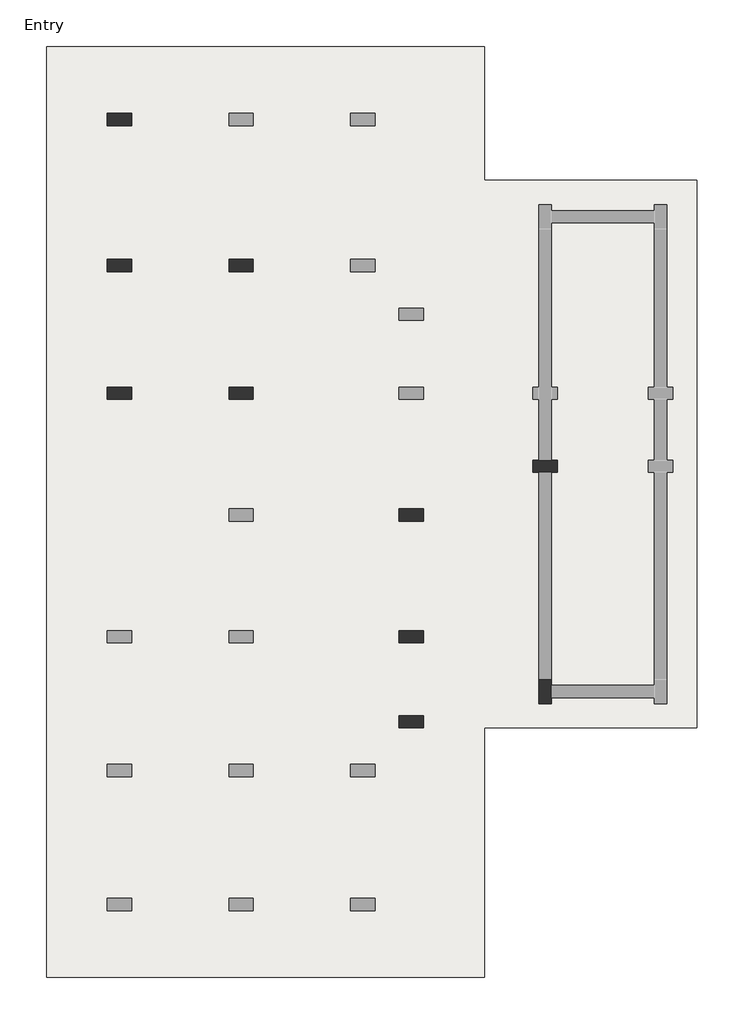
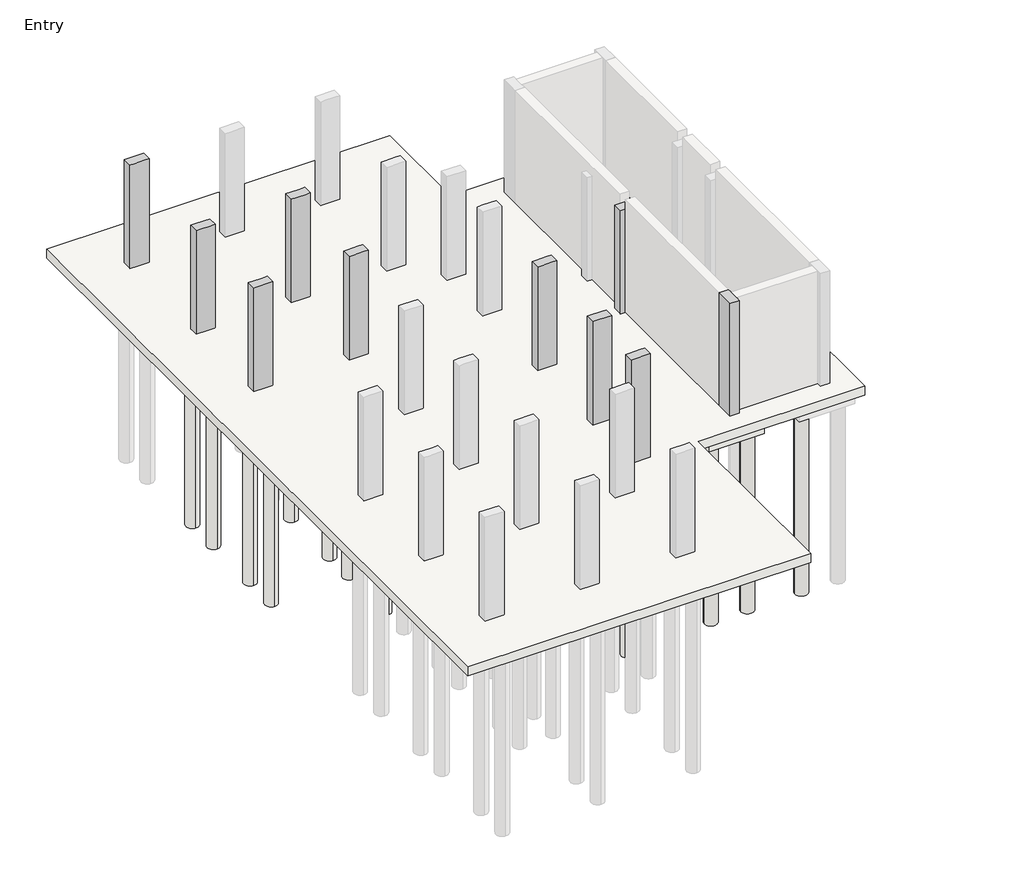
# One storey, part 2 of 3: 35 slabs, 10 columns.
"""IFC4 building model written with IfcOpenShell, lengths in millimetres."""

from ifc_helpers import new_model, si_unit, point, frame, frame_2d, origin, place, context, project, spatial, polyline, circle_curve, trimmed, segment, composite_curve, outline, extrude, faceted_brep, element, save

model = new_model("IFC4")

# Units and contexts
model_context = context("Model", 3, world=origin())
ifc_project = project(units=[si_unit("LENGTHUNIT", "METRE", prefix="MILLI")], contexts=[model_context])

# Site, building, storey
site = spatial("IfcSite", under=ifc_project)
building = spatial("IfcBuilding", under=site)
storey = spatial("IfcBuildingStorey", under=building, Name="Entry", Elevation=0.0)

# Columns
placement = place(None, origin())
element("IfcColumn", 1, ObjectType="Concrete-Rectangular-Column : 12 x 24", at=placement, inside=storey, context=model_context, shape_type="Brep", body=[
    faceted_brep([(-13471.1073204, 23769.0572372, 0.0), (-12861.5073204, 23769.0572372, 0.0), (-12861.5073204, 23464.2572372, 0.0), (-13471.1073204, 23464.2572372, 0.0), (-13471.1073204, 23769.0572372, 3505.2), (-12861.5073204, 23769.0572372, 3505.2), (-12861.5073204, 23769.0572372, 2895.6), (-12861.5073204, 23464.2572372, 3505.2), (-12861.5073204, 23464.2572372, 2895.6), (-13013.9073204, 23464.2572372, 3505.2), (-13318.7073204, 23464.2572372, 3505.2), (-13471.1073204, 23464.2572372, 3505.2)], [[[0, 1, 2, 3]], [[4, 5, 6, 1, 0]], [[5, 7, 8, 2, 1, 6]], [[7, 9, 10, 11, 3, 2, 8]], [[11, 4, 0, 3]], [[4, 11, 10, 9, 7, 5]]]),
])
element("IfcColumn", 2, ObjectType="Concrete-Rectangular-Column : 12 x 24", at=placement, inside=storey, context=model_context, shape_type="Brep", body=[
    faceted_brep([(-13471.1073204, 20111.4572372, 0.0), (-12861.5073204, 20111.4572372, 0.0), (-12861.5073204, 19806.6572372, 0.0), (-13471.1073204, 19806.6572372, 0.0), (-13471.1073204, 20111.4572372, 3505.2), (-13318.7073204, 20111.4572372, 3505.2), (-13013.9073204, 20111.4572372, 3505.2), (-12861.5073204, 20111.4572372, 3505.2), (-12861.5073204, 20111.4572372, 2895.6), (-12861.5073204, 19806.6572372, 3505.2), (-12861.5073204, 19806.6572372, 2895.6), (-13013.9073204, 19806.6572372, 3505.2), (-13318.7073204, 19806.6572372, 3505.2), (-13471.1073204, 19806.6572372, 3505.2)], [[[0, 1, 2, 3]], [[4, 5, 6, 7, 8, 1, 0]], [[7, 9, 10, 2, 1, 8]], [[9, 11, 12, 13, 3, 2, 10]], [[13, 4, 0, 3]], [[4, 13, 12, 11, 9, 7, 6, 5]]]),
])
element("IfcColumn", 3, ObjectType="Concrete-Rectangular-Column : 12 x 24", at=placement, inside=storey, context=model_context, shape_type="Brep", body=[
    faceted_brep([(-10423.1073204, 20111.4572372, 0.0), (-9813.5073204, 20111.4572372, 0.0), (-9813.5073204, 19806.6572372, 0.0), (-10423.1073204, 19806.6572372, 0.0), (-10423.1073204, 20111.4572372, 3505.2), (-10270.7073204, 20111.4572372, 3505.2), (-9965.9073204, 20111.4572372, 3505.2), (-9813.5073204, 20111.4572372, 3505.2), (-9813.5073204, 20111.4572372, 2895.6), (-10423.1073204, 20111.4572372, 2895.6), (-9813.5073204, 19806.6572372, 3505.2), (-9813.5073204, 19806.6572372, 2895.6), (-9965.9073204, 19806.6572372, 3505.2), (-10270.7073204, 19806.6572372, 3505.2), (-10423.1073204, 19806.6572372, 3505.2), (-10423.1073204, 19806.6572372, 2895.6)], [[[0, 1, 2, 3]], [[4, 5, 6, 7, 8, 1, 0, 9]], [[7, 10, 11, 2, 1, 8]], [[10, 12, 13, 14, 15, 3, 2, 11]], [[14, 4, 9, 0, 3, 15]], [[4, 14, 13, 12, 10, 7, 6, 5]]]),
])
element("IfcColumn", 4, ObjectType="Concrete-Rectangular-Column : 12 x 24", at=placement, inside=storey, context=model_context, shape_type="Brep", body=[
    faceted_brep([(-13471.1073204, 16911.0572372, 0.0), (-12861.5073204, 16911.0572372, 0.0), (-12861.5073204, 16606.2572372, 0.0), (-13471.1073204, 16606.2572372, 0.0), (-13471.1073204, 16911.0572372, 3505.2), (-13318.7073204, 16911.0572372, 3505.2), (-13013.9073204, 16911.0572372, 3505.2), (-12861.5073204, 16911.0572372, 3505.2), (-12861.5073204, 16911.0572372, 2895.6), (-12861.5073204, 16606.2572372, 3505.2), (-12861.5073204, 16606.2572372, 2895.6), (-13471.1073204, 16606.2572372, 3505.2)], [[[0, 1, 2, 3]], [[4, 5, 6, 7, 8, 1, 0]], [[7, 9, 10, 2, 1, 8]], [[9, 11, 3, 2, 10]], [[11, 4, 0, 3]], [[4, 11, 9, 7, 6, 5]]]),
])
element("IfcColumn", 5, ObjectType="Concrete-Rectangular-Column : 12 x 24", at=placement, inside=storey, context=model_context, shape_type="Brep", body=[
    faceted_brep([(-10423.1073204, 16911.0572372, 0.0), (-9813.5073204, 16911.0572372, 0.0), (-9813.5073204, 16606.2572372, 0.0), (-10423.1073204, 16606.2572372, 0.0), (-10423.1073204, 16911.0572372, 3505.2), (-10270.7073204, 16911.0572372, 3505.2), (-9965.9073204, 16911.0572372, 3505.2), (-9813.5073204, 16911.0572372, 3505.2), (-9813.5073204, 16911.0572372, 2895.6), (-10423.1073204, 16911.0572372, 2895.6), (-9813.5073204, 16606.2572372, 3505.2), (-9813.5073204, 16606.2572372, 2895.6), (-9965.9073204, 16606.2572372, 3505.2), (-10270.7073204, 16606.2572372, 3505.2), (-10423.1073204, 16606.2572372, 3505.2), (-10423.1073204, 16606.2572372, 2895.6)], [[[0, 1, 2, 3]], [[4, 5, 6, 7, 8, 1, 0, 9]], [[7, 10, 11, 2, 1, 8]], [[10, 12, 13, 14, 15, 3, 2, 11]], [[14, 4, 9, 0, 3, 15]], [[4, 14, 13, 12, 10, 7, 6, 5]]]),
])
element("IfcColumn", 6, ObjectType="Concrete-Rectangular-Column : 12 x 24", at=placement, inside=storey, context=model_context, shape_type="Brep", body=[
    faceted_brep([(-2803.8500241, 15082.2572372, 0.0), (-2651.4500241, 15082.2572372, 0.0), (-2346.6500241, 15082.2572372, 0.0), (-2194.2500241, 15082.2572372, 0.0), (-2194.2500241, 14777.4572372, 0.0), (-2346.6500241, 14777.4572372, 0.0), (-2651.4500241, 14777.4572372, 0.0), (-2803.8500241, 14777.4572372, 0.0), (-2803.8500241, 15082.2572372, 3505.2), (-2194.2500241, 15082.2572372, 3505.2), (-2194.2500241, 14777.4572372, 3505.2), (-2803.8500241, 14777.4572372, 3505.2)], [[[0, 1, 2, 3, 4, 5, 6, 7]], [[3, 2, 1, 0, 8, 9]], [[4, 3, 9, 10]], [[7, 6, 5, 4, 10, 11]], [[0, 7, 11, 8]], [[9, 8, 11, 10]]]),
])
element("IfcColumn", 7, ObjectType="Concrete-Rectangular-Column : 12 x 24", at=placement, inside=storey, context=model_context, shape_type="Brep", body=[
    faceted_brep([(-6156.6500241, 13863.0572372, 0.0), (-5547.0500241, 13863.0572372, 0.0), (-5547.0500241, 13558.2572372, 0.0), (-6156.6500241, 13558.2572372, 0.0), (-6156.6500241, 13863.0572372, 3505.2), (-6004.2500241, 13863.0572372, 3505.2), (-5699.4500241, 13863.0572372, 3505.2), (-5547.0500241, 13863.0572372, 3505.2), (-6156.6500241, 13863.0572372, 2895.6), (-5547.0500241, 13558.2572372, 3505.2), (-5699.4500241, 13558.2572372, 3505.2), (-6004.2500241, 13558.2572372, 3505.2), (-6156.6500241, 13558.2572372, 3505.2), (-6156.6500241, 13558.2572372, 2895.6)], [[[0, 1, 2, 3]], [[4, 5, 6, 7, 1, 0, 8]], [[7, 9, 2, 1]], [[9, 10, 11, 12, 13, 3, 2]], [[12, 4, 8, 0, 3, 13]], [[4, 12, 11, 10, 9, 7, 6, 5]]]),
])
element("IfcColumn", 8, ObjectType="Concrete-Rectangular-Column : 12 x 24", at=placement, inside=storey, context=model_context, shape_type="Brep", body=[
    faceted_brep([(-6156.6500241, 10815.0572372, 0.0), (-5547.0500241, 10815.0572372, 0.0), (-5547.0500241, 10510.2572372, 0.0), (-6156.6500241, 10510.2572372, 0.0), (-6156.6500241, 10815.0572372, 3505.2), (-6004.2500241, 10815.0572372, 3505.2), (-5699.4500241, 10815.0572372, 3505.2), (-5547.0500241, 10815.0572372, 3505.2), (-6156.6500241, 10815.0572372, 2895.6), (-5547.0500241, 10510.2572372, 3505.2), (-5699.4500241, 10510.2572372, 3505.2), (-6004.2500241, 10510.2572372, 3505.2), (-6156.6500241, 10510.2572372, 3505.2), (-6156.6500241, 10510.2572372, 2895.6)], [[[0, 1, 2, 3]], [[4, 5, 6, 7, 1, 0, 8]], [[7, 9, 2, 1]], [[9, 10, 11, 12, 13, 3, 2]], [[12, 4, 8, 0, 3, 13]], [[4, 12, 11, 10, 9, 7, 6, 5]]]),
])
element("IfcColumn", 9, ObjectType="Concrete-Rectangular-Column : 12 x 24", at=placement, inside=storey, context=model_context, shape_type="Brep", body=[
    faceted_brep([(-6156.6500241, 8681.4572372, 0.0), (-5547.0500241, 8681.4572372, 0.0), (-5547.0500241, 8376.6572372, 0.0), (-6156.6500241, 8376.6572372, 0.0), (-6156.6500241, 8681.4572372, 3505.2), (-6004.2500241, 8681.4572372, 3505.2), (-5699.4500241, 8681.4572372, 3505.2), (-5547.0500241, 8681.4572372, 3505.2), (-6156.6500241, 8681.4572372, 2895.6), (-5547.0500241, 8376.6572372, 3505.2), (-6156.6500241, 8376.6572372, 3505.2), (-6156.6500241, 8376.6572372, 2895.6)], [[[0, 1, 2, 3]], [[4, 5, 6, 7, 1, 0, 8]], [[7, 9, 2, 1]], [[9, 10, 11, 3, 2]], [[10, 4, 8, 0, 3, 11]], [[4, 10, 9, 7, 6, 5]]]),
])
element("IfcColumn", 10, ObjectType="Concrete-Rectangular-Column : 12 x 24", at=placement, inside=storey, context=model_context, shape_type="Brep", body=[
    faceted_brep([(-2346.6500241, 9595.8572372, 0.0), (-2346.6500241, 9443.4572372, 0.0), (-2346.6500241, 9138.6572372, 0.0), (-2346.6500241, 8986.2572372, 0.0), (-2651.4500241, 8986.2572372, 0.0), (-2651.4500241, 9595.8572372, 0.0), (-2346.6500241, 9595.8572372, 3810.0), (-2346.6500241, 9443.4572372, 3810.0), (-2346.6500241, 9138.6572372, 3810.0), (-2346.6500241, 8986.2572372, 3810.0), (-2651.4500241, 8986.2572372, 3810.0), (-2651.4500241, 9595.8572372, 3810.0)], [[[0, 1, 2, 3, 4, 5]], [[6, 7, 8, 9, 3, 2, 1, 0]], [[9, 10, 4, 3]], [[10, 11, 5, 4]], [[11, 6, 0, 5]], [[6, 11, 10, 9, 8, 7]]]),
])

# Slabs
element("IfcSlab", 11, ObjectType="12\" Foundation Slab", at=placement, inside=storey, context=model_context, shape_type="SweptSolid", body=[
    extrude(outline(polyline([(-4023.0500241, 25445.4572372), (-4023.0500241, 22092.6572372), (1309.1860546, 22092.6572372), (1309.1860546, 8376.6572372), (-4023.0500241, 8376.6572372), (-4023.0500241, 2128.2572372), (-14995.1073204, 2128.2572372), (-14995.1073204, 25445.4572372), (-4023.0500241, 25445.4572372)])), frame((0.0, 0.0, -304.8), z_axis=(0.0, 0.0, 1.0), x_axis=(1.0, 0.0, 0.0)), (0.0, 0.0, 1.0), 304.8),
])
element("IfcSlab", 12, ObjectType="Pile Cap-2 Pile : 31\"x61\"x35\"", at=placement, inside=storey, context=model_context, shape_type="SweptSolid", body=[
    extrude(outline(polyline([(-13572.7073204, 24505.6572372), (-12759.9073204, 24505.6572372), (-12759.9073204, 22727.6572372), (-13572.7073204, 22727.6572372), (-13572.7073204, 24505.6572372)])), frame((0.0, 0.0, -889.0), z_axis=(0.0, 0.0, 1.0), x_axis=(1.0, 0.0, 0.0)), (0.0, 0.0, 1.0), 584.2),
])
element("IfcSlab", 13, ObjectType="Pile Cap-2 Pile : 31\"x61\"x35\"", at=placement, inside=storey, context=model_context, shape_type="SweptSolid", body=[
    extrude(outline(polyline([(-13572.7073204, 20848.0572372), (-12759.9073204, 20848.0572372), (-12759.9073204, 19070.0572372), (-13572.7073204, 19070.0572372), (-13572.7073204, 20848.0572372)])), frame((0.0, 0.0, -889.0), z_axis=(0.0, 0.0, 1.0), x_axis=(1.0, 0.0, 0.0)), (0.0, 0.0, 1.0), 584.2),
])
element("IfcSlab", 14, ObjectType="Pile Cap-2 Pile : 31\"x61\"x35\"", at=placement, inside=storey, context=model_context, shape_type="SweptSolid", body=[
    extrude(outline(polyline([(-13572.7073204, 17647.6572372), (-12759.9073204, 17647.6572372), (-12759.9073204, 15869.6572372), (-13572.7073204, 15869.6572372), (-13572.7073204, 17647.6572372)])), frame((0.0, 0.0, -889.0), z_axis=(0.0, 0.0, 1.0), x_axis=(1.0, 0.0, 0.0)), (0.0, 0.0, 1.0), 584.2),
])
element("IfcSlab", 15, ObjectType="Pile Cap-2 Pile : 31\"x61\"x35\"", at=placement, inside=storey, context=model_context, shape_type="SweptSolid", body=[
    extrude(outline(polyline([(-6258.2500241, 14599.6572372), (-5445.4500241, 14599.6572372), (-5445.4500241, 12821.6572372), (-6258.2500241, 12821.6572372), (-6258.2500241, 14599.6572372)])), frame((0.0, 0.0, -889.0), z_axis=(0.0, 0.0, 1.0), x_axis=(1.0, 0.0, 0.0)), (0.0, 0.0, 1.0), 584.2),
])
element("IfcSlab", 16, ObjectType="Pile Cap-2 Pile : 31\"x61\"x35\"", at=placement, inside=storey, context=model_context, shape_type="SweptSolid", body=[
    extrude(outline(polyline([(-6258.2500241, 11551.6572372), (-5445.4500241, 11551.6572372), (-5445.4500241, 9773.6572372), (-6258.2500241, 9773.6572372), (-6258.2500241, 11551.6572372)])), frame((0.0, 0.0, -889.0), z_axis=(0.0, 0.0, 1.0), x_axis=(1.0, 0.0, 0.0)), (0.0, 0.0, 1.0), 584.2),
])
element("IfcSlab", 17, ObjectType="Pile Cap-2 Pile : 31\"x61\"x35\"", at=placement, inside=storey, context=model_context, shape_type="SweptSolid", body=[
    extrude(outline(polyline([(-3388.0500241, 14523.4572372), (-3388.0500241, 15336.2572372), (-1610.0500241, 15336.2572372), (-1610.0500241, 14523.4572372), (-3388.0500241, 14523.4572372)])), frame((0.0, 0.0, -889.0), z_axis=(0.0, 0.0, 1.0), x_axis=(1.0, 0.0, 0.0)), (0.0, 0.0, 1.0), 584.2),
])
element("IfcSlab", 18, ObjectType="Pile Cap-2 Pile : 31\"x61\"x35\"", at=placement, inside=storey, context=model_context, shape_type="SweptSolid", body=[
    extrude(outline(polyline([(-1610.0500241, 9697.4572372), (-1610.0500241, 8884.6572372), (-3388.0500241, 8884.6572372), (-3388.0500241, 9697.4572372), (-1610.0500241, 9697.4572372)])), frame((0.0, 0.0, -889.0), z_axis=(0.0, 0.0, 1.0), x_axis=(1.0, 0.0, 0.0)), (0.0, 0.0, 1.0), 584.2),
])
element("IfcSlab", 19, ObjectType="Pile Cap-2 Pile : 31\"x61\"x35\"", at=placement, inside=storey, context=model_context, shape_type="SweptSolid", body=[
    extrude(outline(polyline([(-6258.2500241, 9418.0572372), (-5445.4500241, 9418.0572372), (-5445.4500241, 7640.0572372), (-6258.2500241, 7640.0572372), (-6258.2500241, 9418.0572372)])), frame((0.0, 0.0, -889.0), z_axis=(0.0, 0.0, 1.0), x_axis=(1.0, 0.0, 0.0)), (0.0, 0.0, 1.0), 584.2),
])
element("IfcSlab", 20, ObjectType="Pile Cap-4 Pile : 72\"x72\"x35\"", at=placement, inside=storey, context=model_context, shape_type="SweptSolid", body=[
    extrude(outline(polyline([(-11032.7073204, 20873.4572372), (-9203.9073204, 20873.4572372), (-9203.9073204, 19044.6572372), (-11032.7073204, 19044.6572372), (-11032.7073204, 20873.4572372)])), frame((0.0, 0.0, -889.0), z_axis=(0.0, 0.0, 1.0), x_axis=(1.0, 0.0, 0.0)), (0.0, 0.0, 1.0), 584.2),
])
element("IfcSlab", 21, ObjectType="Pile Cap-4 Pile : 72\"x72\"x35\"", at=placement, inside=storey, context=model_context, shape_type="SweptSolid", body=[
    extrude(outline(polyline([(-11032.7073204, 17673.0572372), (-9203.9073204, 17673.0572372), (-9203.9073204, 15844.2572372), (-11032.7073204, 15844.2572372), (-11032.7073204, 17673.0572372)])), frame((0.0, 0.0, -889.0), z_axis=(0.0, 0.0, 1.0), x_axis=(1.0, 0.0, 0.0)), (0.0, 0.0, 1.0), 584.2),
])
element("IfcSlab", 22, ObjectType="Pile-Steel Pipe : 16\" Diameter", at=placement, inside=storey, context=model_context, shape_type="SweptSolid", body=[
    extrude(outline(composite_curve([segment(trimmed(circle_curve(frame_2d((-10651.7073204, 19425.6572372)), 203.2), [point((-10651.7073204, 19222.4572372))], [point((-10651.7073204, 19628.8572372))], False, "CARTESIAN"), True, "CONTINUOUS"), segment(trimmed(circle_curve(frame_2d((-10651.7073204, 19425.6572372)), 203.2), [point((-10651.7073204, 19628.8572372))], [point((-10651.7073204, 19222.4572372))], False, "CARTESIAN"), True, "CONTINUOUS")], self_intersect=False)), frame((0.0, 0.0, -6985.0), z_axis=(0.0, 0.0, 1.0), x_axis=(1.0, 0.0, 0.0)), (0.0, 0.0, 1.0), 6096.0),
])
element("IfcSlab", 23, ObjectType="Pile-Steel Pipe : 16\" Diameter", at=placement, inside=storey, context=model_context, shape_type="SweptSolid", body=[
    extrude(outline(composite_curve([segment(trimmed(circle_curve(frame_2d((-9584.9073204, 19425.6572372)), 203.2), [point((-9584.9073204, 19222.4572372))], [point((-9584.9073204, 19628.8572372))], False, "CARTESIAN"), True, "CONTINUOUS"), segment(trimmed(circle_curve(frame_2d((-9584.9073204, 19425.6572372)), 203.2), [point((-9584.9073204, 19628.8572372))], [point((-9584.9073204, 19222.4572372))], False, "CARTESIAN"), True, "CONTINUOUS")], self_intersect=False)), frame((0.0, 0.0, -6985.0), z_axis=(0.0, 0.0, 1.0), x_axis=(1.0, 0.0, 0.0)), (0.0, 0.0, 1.0), 6096.0),
])
element("IfcSlab", 24, ObjectType="Pile-Steel Pipe : 16\" Diameter", at=placement, inside=storey, context=model_context, shape_type="SweptSolid", body=[
    extrude(outline(composite_curve([segment(trimmed(circle_curve(frame_2d((-10651.7073204, 16225.2572372)), 203.2), [point((-10651.7073204, 16022.0572372))], [point((-10651.7073204, 16428.4572372))], False, "CARTESIAN"), True, "CONTINUOUS"), segment(trimmed(circle_curve(frame_2d((-10651.7073204, 16225.2572372)), 203.2), [point((-10651.7073204, 16428.4572372))], [point((-10651.7073204, 16022.0572372))], False, "CARTESIAN"), True, "CONTINUOUS")], self_intersect=False)), frame((0.0, 0.0, -6985.0), z_axis=(0.0, 0.0, 1.0), x_axis=(1.0, 0.0, 0.0)), (0.0, 0.0, 1.0), 6096.0),
])
element("IfcSlab", 25, ObjectType="Pile-Steel Pipe : 16\" Diameter", at=placement, inside=storey, context=model_context, shape_type="SweptSolid", body=[
    extrude(outline(composite_curve([segment(trimmed(circle_curve(frame_2d((-9584.9073204, 16225.2572372)), 203.2), [point((-9584.9073204, 16022.0572372))], [point((-9584.9073204, 16428.4572372))], False, "CARTESIAN"), True, "CONTINUOUS"), segment(trimmed(circle_curve(frame_2d((-9584.9073204, 16225.2572372)), 203.2), [point((-9584.9073204, 16428.4572372))], [point((-9584.9073204, 16022.0572372))], False, "CARTESIAN"), True, "CONTINUOUS")], self_intersect=False)), frame((0.0, 0.0, -6985.0), z_axis=(0.0, 0.0, 1.0), x_axis=(1.0, 0.0, 0.0)), (0.0, 0.0, 1.0), 6096.0),
])
element("IfcSlab", 26, ObjectType="Pile-Steel Pipe : 16\" Diameter", at=placement, inside=storey, context=model_context, shape_type="SweptSolid", body=[
    extrude(outline(composite_curve([segment(trimmed(circle_curve(frame_2d((-9584.9073204, 17292.0572372)), 203.2), [point((-9584.9073204, 17088.8572372))], [point((-9584.9073204, 17495.2572372))], False, "CARTESIAN"), True, "CONTINUOUS"), segment(trimmed(circle_curve(frame_2d((-9584.9073204, 17292.0572372)), 203.2), [point((-9584.9073204, 17495.2572372))], [point((-9584.9073204, 17088.8572372))], False, "CARTESIAN"), True, "CONTINUOUS")], self_intersect=False)), frame((0.0, 0.0, -6985.0), z_axis=(0.0, 0.0, 1.0), x_axis=(1.0, 0.0, 0.0)), (0.0, 0.0, 1.0), 6096.0),
])
element("IfcSlab", 27, ObjectType="Pile-Steel Pipe : 16\" Diameter", at=placement, inside=storey, context=model_context, shape_type="SweptSolid", body=[
    extrude(outline(composite_curve([segment(trimmed(circle_curve(frame_2d((-10651.7073204, 17292.0572372)), 203.2), [point((-10651.7073204, 17088.8572372))], [point((-10651.7073204, 17495.2572372))], False, "CARTESIAN"), True, "CONTINUOUS"), segment(trimmed(circle_curve(frame_2d((-10651.7073204, 17292.0572372)), 203.2), [point((-10651.7073204, 17495.2572372))], [point((-10651.7073204, 17088.8572372))], False, "CARTESIAN"), True, "CONTINUOUS")], self_intersect=False)), frame((0.0, 0.0, -6985.0), z_axis=(0.0, 0.0, 1.0), x_axis=(1.0, 0.0, 0.0)), (0.0, 0.0, 1.0), 6096.0),
])
element("IfcSlab", 28, ObjectType="Pile-Steel Pipe : 16\" Diameter", at=placement, inside=storey, context=model_context, shape_type="SweptSolid", body=[
    extrude(outline(composite_curve([segment(trimmed(circle_curve(frame_2d((-9584.9073204, 13177.2572372)), 203.2), [point((-9584.9073204, 12974.0572372))], [point((-9584.9073204, 13380.4572372))], False, "CARTESIAN"), True, "CONTINUOUS"), segment(trimmed(circle_curve(frame_2d((-9584.9073204, 13177.2572372)), 203.2), [point((-9584.9073204, 13380.4572372))], [point((-9584.9073204, 12974.0572372))], False, "CARTESIAN"), True, "CONTINUOUS")], self_intersect=False)), frame((0.0, 0.0, -6985.0), z_axis=(0.0, 0.0, 1.0), x_axis=(1.0, 0.0, 0.0)), (0.0, 0.0, 1.0), 6096.0),
])
element("IfcSlab", 29, ObjectType="Pile-Steel Pipe : 16\" Diameter", at=placement, inside=storey, context=model_context, shape_type="SweptSolid", body=[
    extrude(outline(composite_curve([segment(trimmed(circle_curve(frame_2d((-9584.9073204, 14244.0572372)), 203.2), [point((-9584.9073204, 14040.8572372))], [point((-9584.9073204, 14447.2572372))], False, "CARTESIAN"), True, "CONTINUOUS"), segment(trimmed(circle_curve(frame_2d((-9584.9073204, 14244.0572372)), 203.2), [point((-9584.9073204, 14447.2572372))], [point((-9584.9073204, 14040.8572372))], False, "CARTESIAN"), True, "CONTINUOUS")], self_intersect=False)), frame((0.0, 0.0, -6985.0), z_axis=(0.0, 0.0, 1.0), x_axis=(1.0, 0.0, 0.0)), (0.0, 0.0, 1.0), 6096.0),
])
element("IfcSlab", 30, ObjectType="Pile-Steel Pipe : 16\" Diameter", at=placement, inside=storey, context=model_context, shape_type="SweptSolid", body=[
    extrude(outline(composite_curve([segment(trimmed(circle_curve(frame_2d((-10651.7073204, 14244.0572372)), 203.2), [point((-10651.7073204, 14040.8572372))], [point((-10651.7073204, 14447.2572372))], False, "CARTESIAN"), True, "CONTINUOUS"), segment(trimmed(circle_curve(frame_2d((-10651.7073204, 14244.0572372)), 203.2), [point((-10651.7073204, 14447.2572372))], [point((-10651.7073204, 14040.8572372))], False, "CARTESIAN"), True, "CONTINUOUS")], self_intersect=False)), frame((0.0, 0.0, -6985.0), z_axis=(0.0, 0.0, 1.0), x_axis=(1.0, 0.0, 0.0)), (0.0, 0.0, 1.0), 6096.0),
])
element("IfcSlab", 31, ObjectType="Pile-Steel Pipe : 16\" Diameter", at=placement, inside=storey, context=model_context, shape_type="SweptSolid", body=[
    extrude(outline(composite_curve([segment(trimmed(circle_curve(frame_2d((-13166.3073204, 19374.8572372)), 203.2), [point((-13166.3073204, 19171.6572372))], [point((-13166.3073204, 19578.0572372))], False, "CARTESIAN"), True, "CONTINUOUS"), segment(trimmed(circle_curve(frame_2d((-13166.3073204, 19374.8572372)), 203.2), [point((-13166.3073204, 19578.0572372))], [point((-13166.3073204, 19171.6572372))], False, "CARTESIAN"), True, "CONTINUOUS")], self_intersect=False)), frame((0.0, 0.0, -6985.0), z_axis=(0.0, 0.0, 1.0), x_axis=(1.0, 0.0, 0.0)), (0.0, 0.0, 1.0), 6096.0),
])
element("IfcSlab", 32, ObjectType="Pile-Steel Pipe : 16\" Diameter", at=placement, inside=storey, context=model_context, shape_type="SweptSolid", body=[
    extrude(outline(composite_curve([segment(trimmed(circle_curve(frame_2d((-13166.3073204, 20543.2572372)), 203.2), [point((-13166.3073204, 20340.0572372))], [point((-13166.3073204, 20746.4572372))], False, "CARTESIAN"), True, "CONTINUOUS"), segment(trimmed(circle_curve(frame_2d((-13166.3073204, 20543.2572372)), 203.2), [point((-13166.3073204, 20746.4572372))], [point((-13166.3073204, 20340.0572372))], False, "CARTESIAN"), True, "CONTINUOUS")], self_intersect=False)), frame((0.0, 0.0, -6985.0), z_axis=(0.0, 0.0, 1.0), x_axis=(1.0, 0.0, 0.0)), (0.0, 0.0, 1.0), 6096.0),
])
element("IfcSlab", 33, ObjectType="Pile-Steel Pipe : 16\" Diameter", at=placement, inside=storey, context=model_context, shape_type="SweptSolid", body=[
    extrude(outline(composite_curve([segment(trimmed(circle_curve(frame_2d((-13166.3073204, 16174.4572372)), 203.2), [point((-13166.3073204, 15971.2572372))], [point((-13166.3073204, 16377.6572372))], False, "CARTESIAN"), True, "CONTINUOUS"), segment(trimmed(circle_curve(frame_2d((-13166.3073204, 16174.4572372)), 203.2), [point((-13166.3073204, 16377.6572372))], [point((-13166.3073204, 15971.2572372))], False, "CARTESIAN"), True, "CONTINUOUS")], self_intersect=False)), frame((0.0, 0.0, -6985.0), z_axis=(0.0, 0.0, 1.0), x_axis=(1.0, 0.0, 0.0)), (0.0, 0.0, 1.0), 6096.0),
])
element("IfcSlab", 34, ObjectType="Pile-Steel Pipe : 16\" Diameter", at=placement, inside=storey, context=model_context, shape_type="SweptSolid", body=[
    extrude(outline(composite_curve([segment(trimmed(circle_curve(frame_2d((-13166.3073204, 17342.8572372)), 203.2), [point((-13166.3073204, 17139.6572372))], [point((-13166.3073204, 17546.0572372))], False, "CARTESIAN"), True, "CONTINUOUS"), segment(trimmed(circle_curve(frame_2d((-13166.3073204, 17342.8572372)), 203.2), [point((-13166.3073204, 17546.0572372))], [point((-13166.3073204, 17139.6572372))], False, "CARTESIAN"), True, "CONTINUOUS")], self_intersect=False)), frame((0.0, 0.0, -6985.0), z_axis=(0.0, 0.0, 1.0), x_axis=(1.0, 0.0, 0.0)), (0.0, 0.0, 1.0), 6096.0),
])
element("IfcSlab", 35, ObjectType="Pile-Steel Pipe : 16\" Diameter", at=placement, inside=storey, context=model_context, shape_type="SweptSolid", body=[
    extrude(outline(composite_curve([segment(trimmed(circle_curve(frame_2d((-5851.8500241, 13126.4572372)), 203.2), [point((-5851.8500241, 12923.2572372))], [point((-5851.8500241, 13329.6572372))], False, "CARTESIAN"), True, "CONTINUOUS"), segment(trimmed(circle_curve(frame_2d((-5851.8500241, 13126.4572372)), 203.2), [point((-5851.8500241, 13329.6572372))], [point((-5851.8500241, 12923.2572372))], False, "CARTESIAN"), True, "CONTINUOUS")], self_intersect=False)), frame((0.0, 0.0, -6985.0), z_axis=(0.0, 0.0, 1.0), x_axis=(1.0, 0.0, 0.0)), (0.0, 0.0, 1.0), 6096.0),
])
element("IfcSlab", 36, ObjectType="Pile-Steel Pipe : 16\" Diameter", at=placement, inside=storey, context=model_context, shape_type="SweptSolid", body=[
    extrude(outline(composite_curve([segment(trimmed(circle_curve(frame_2d((-5851.8500241, 14294.8572372)), 203.2), [point((-5851.8500241, 14091.6572372))], [point((-5851.8500241, 14498.0572372))], False, "CARTESIAN"), True, "CONTINUOUS"), segment(trimmed(circle_curve(frame_2d((-5851.8500241, 14294.8572372)), 203.2), [point((-5851.8500241, 14498.0572372))], [point((-5851.8500241, 14091.6572372))], False, "CARTESIAN"), True, "CONTINUOUS")], self_intersect=False)), frame((0.0, 0.0, -6985.0), z_axis=(0.0, 0.0, 1.0), x_axis=(1.0, 0.0, 0.0)), (0.0, 0.0, 1.0), 6096.0),
])
element("IfcSlab", 37, ObjectType="Pile-Steel Pipe : 16\" Diameter", at=placement, inside=storey, context=model_context, shape_type="SweptSolid", body=[
    extrude(outline(composite_curve([segment(trimmed(circle_curve(frame_2d((-5851.8500241, 10078.4572372)), 203.2), [point((-5851.8500241, 9875.2572372))], [point((-5851.8500241, 10281.6572372))], False, "CARTESIAN"), True, "CONTINUOUS"), segment(trimmed(circle_curve(frame_2d((-5851.8500241, 10078.4572372)), 203.2), [point((-5851.8500241, 10281.6572372))], [point((-5851.8500241, 9875.2572372))], False, "CARTESIAN"), True, "CONTINUOUS")], self_intersect=False)), frame((0.0, 0.0, -6985.0), z_axis=(0.0, 0.0, 1.0), x_axis=(1.0, 0.0, 0.0)), (0.0, 0.0, 1.0), 6096.0),
])
element("IfcSlab", 38, ObjectType="Pile-Steel Pipe : 16\" Diameter", at=placement, inside=storey, context=model_context, shape_type="SweptSolid", body=[
    extrude(outline(composite_curve([segment(trimmed(circle_curve(frame_2d((-5851.8500241, 11246.8572372)), 203.2), [point((-5851.8500241, 11043.6572372))], [point((-5851.8500241, 11450.0572372))], False, "CARTESIAN"), True, "CONTINUOUS"), segment(trimmed(circle_curve(frame_2d((-5851.8500241, 11246.8572372)), 203.2), [point((-5851.8500241, 11450.0572372))], [point((-5851.8500241, 11043.6572372))], False, "CARTESIAN"), True, "CONTINUOUS")], self_intersect=False)), frame((0.0, 0.0, -6985.0), z_axis=(0.0, 0.0, 1.0), x_axis=(1.0, 0.0, 0.0)), (0.0, 0.0, 1.0), 6096.0),
])
element("IfcSlab", 39, ObjectType="Pile-Steel Pipe : 16\" Diameter", at=placement, inside=storey, context=model_context, shape_type="SweptSolid", body=[
    extrude(outline(composite_curve([segment(trimmed(circle_curve(frame_2d((-189.4139454, 14929.8572372)), 203.2), [point((13.7860546, 14929.8572372))], [point((-392.6139454, 14929.8572372))], False, "CARTESIAN"), True, "CONTINUOUS"), segment(trimmed(circle_curve(frame_2d((-189.4139454, 14929.8572372)), 203.2), [point((-392.6139454, 14929.8572372))], [point((13.7860546, 14929.8572372))], False, "CARTESIAN"), True, "CONTINUOUS")], self_intersect=False)), frame((0.0, 0.0, -6985.0), z_axis=(0.0, 0.0, 1.0), x_axis=(1.0, 0.0, 0.0)), (0.0, 0.0, 1.0), 6096.0),
])
element("IfcSlab", 40, ObjectType="Pile-Steel Pipe : 16\" Diameter", at=placement, inside=storey, context=model_context, shape_type="SweptSolid", body=[
    extrude(outline(composite_curve([segment(trimmed(circle_curve(frame_2d((-1914.8500241, 14929.8572372)), 203.2), [point((-1711.6500241, 14929.8572372))], [point((-2118.0500241, 14929.8572372))], False, "CARTESIAN"), True, "CONTINUOUS"), segment(trimmed(circle_curve(frame_2d((-1914.8500241, 14929.8572372)), 203.2), [point((-2118.0500241, 14929.8572372))], [point((-1711.6500241, 14929.8572372))], False, "CARTESIAN"), True, "CONTINUOUS")], self_intersect=False)), frame((0.0, 0.0, -6985.0), z_axis=(0.0, 0.0, 1.0), x_axis=(1.0, 0.0, 0.0)), (0.0, 0.0, 1.0), 6096.0),
])
element("IfcSlab", 41, ObjectType="Pile-Steel Pipe : 16\" Diameter", at=placement, inside=storey, context=model_context, shape_type="SweptSolid", body=[
    extrude(outline(composite_curve([segment(trimmed(circle_curve(frame_2d((-3083.2500241, 14929.8572372)), 203.2), [point((-2880.0500241, 14929.8572372))], [point((-3286.4500241, 14929.8572372))], False, "CARTESIAN"), True, "CONTINUOUS"), segment(trimmed(circle_curve(frame_2d((-3083.2500241, 14929.8572372)), 203.2), [point((-3286.4500241, 14929.8572372))], [point((-2880.0500241, 14929.8572372))], False, "CARTESIAN"), True, "CONTINUOUS")], self_intersect=False)), frame((0.0, 0.0, -6985.0), z_axis=(0.0, 0.0, 1.0), x_axis=(1.0, 0.0, 0.0)), (0.0, 0.0, 1.0), 6096.0),
])
element("IfcSlab", 42, ObjectType="Pile-Steel Pipe : 16\" Diameter", at=placement, inside=storey, context=model_context, shape_type="SweptSolid", body=[
    extrude(outline(composite_curve([segment(trimmed(circle_curve(frame_2d((-3083.2500241, 9291.0572372)), 203.2), [point((-3286.4500241, 9291.0572372))], [point((-2880.0500241, 9291.0572372))], False, "CARTESIAN"), True, "CONTINUOUS"), segment(trimmed(circle_curve(frame_2d((-3083.2500241, 9291.0572372)), 203.2), [point((-2880.0500241, 9291.0572372))], [point((-3286.4500241, 9291.0572372))], False, "CARTESIAN"), True, "CONTINUOUS")], self_intersect=False)), frame((0.0, 0.0, -6985.0), z_axis=(0.0, 0.0, 1.0), x_axis=(1.0, 0.0, 0.0)), (0.0, 0.0, 1.0), 6096.0),
])
element("IfcSlab", 43, ObjectType="Pile-Steel Pipe : 16\" Diameter", at=placement, inside=storey, context=model_context, shape_type="SweptSolid", body=[
    extrude(outline(composite_curve([segment(trimmed(circle_curve(frame_2d((-1914.8500241, 9291.0572372)), 203.2), [point((-2118.0500241, 9291.0572372))], [point((-1711.6500241, 9291.0572372))], False, "CARTESIAN"), True, "CONTINUOUS"), segment(trimmed(circle_curve(frame_2d((-1914.8500241, 9291.0572372)), 203.2), [point((-1711.6500241, 9291.0572372))], [point((-2118.0500241, 9291.0572372))], False, "CARTESIAN"), True, "CONTINUOUS")], self_intersect=False)), frame((0.0, 0.0, -6985.0), z_axis=(0.0, 0.0, 1.0), x_axis=(1.0, 0.0, 0.0)), (0.0, 0.0, 1.0), 6096.0),
])
element("IfcSlab", 44, ObjectType="Pile-Steel Pipe : 16\" Diameter", at=placement, inside=storey, context=model_context, shape_type="SweptSolid", body=[
    extrude(outline(composite_curve([segment(trimmed(circle_curve(frame_2d((-189.4139454, 9291.0572372)), 203.2), [point((-392.6139454, 9291.0572372))], [point((13.7860546, 9291.0572372))], False, "CARTESIAN"), True, "CONTINUOUS"), segment(trimmed(circle_curve(frame_2d((-189.4139454, 9291.0572372)), 203.2), [point((13.7860546, 9291.0572372))], [point((-392.6139454, 9291.0572372))], False, "CARTESIAN"), True, "CONTINUOUS")], self_intersect=False)), frame((0.0, 0.0, -6985.0), z_axis=(0.0, 0.0, 1.0), x_axis=(1.0, 0.0, 0.0)), (0.0, 0.0, 1.0), 6096.0),
])
element("IfcSlab", 45, ObjectType="Pile-Steel Pipe : 16\" Diameter", at=placement, inside=storey, context=model_context, shape_type="SweptSolid", body=[
    extrude(outline(composite_curve([segment(trimmed(circle_curve(frame_2d((-5851.8500241, 9113.2572372)), 203.2), [point((-5851.8500241, 8910.0572372))], [point((-5851.8500241, 9316.4572372))], False, "CARTESIAN"), True, "CONTINUOUS"), segment(trimmed(circle_curve(frame_2d((-5851.8500241, 9113.2572372)), 203.2), [point((-5851.8500241, 9316.4572372))], [point((-5851.8500241, 8910.0572372))], False, "CARTESIAN"), True, "CONTINUOUS")], self_intersect=False)), frame((0.0, 0.0, -6985.0), z_axis=(0.0, 0.0, 1.0), x_axis=(1.0, 0.0, 0.0)), (0.0, 0.0, 1.0), 6096.0),
])

save(model, "model.ifc")
